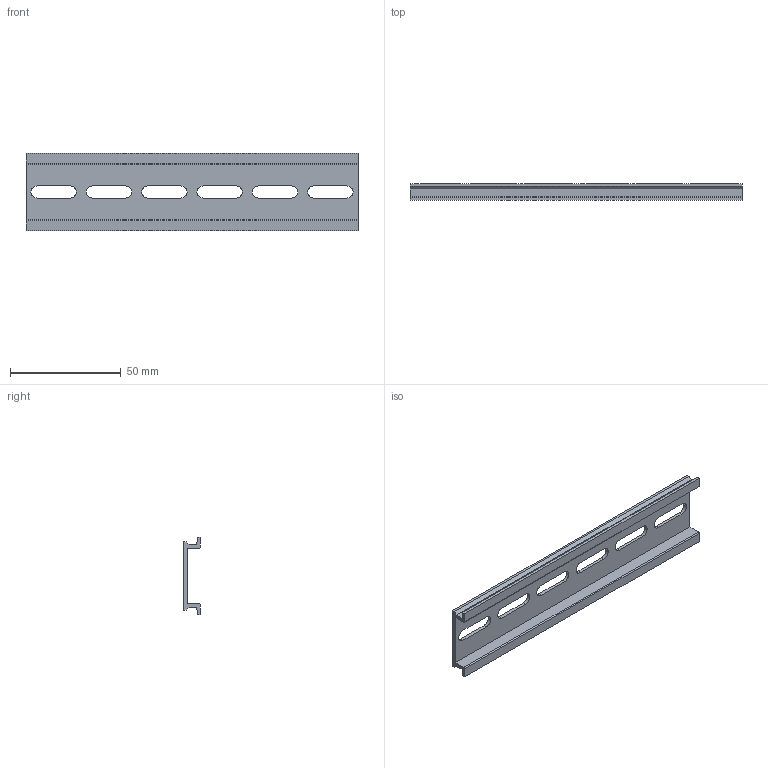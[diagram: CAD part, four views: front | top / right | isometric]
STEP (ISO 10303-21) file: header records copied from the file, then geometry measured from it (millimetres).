
FILE_DESCRIPTION( (''), '2;1');
FILE_NAME ('CVICAD02.15516.DIN-RAIL150_7325.stp','2020-09-01T14:18:02',(''),(''),'spGate 12.6.6','','');
FILE_SCHEMA (('AUTOMOTIVE_DESIGN'));
Length unit declared in the file: millimetre
Bounding box: 150 x 7.5 x 35 mm (x, y, z)
Volume: 10590 mm3; surface area: 14258.7 mm2
Topology: 1 solids, 1 shells, 44 faces, 126 edges, 84 vertices
Faces by surface type: plane 30, cylinder 14
Entity records: 2461 total; most frequent: CARTESIAN_POINT 254, ORIENTED_EDGE 252, DIRECTION 242, COLOUR_RGB 171, PRESENTATION_STYLE_ASSIGNMENT 171, STYLED_ITEM 171, EDGE_CURVE 126, DRAUGHTING_PRE_DEFINED_CURVE_FONT 126
